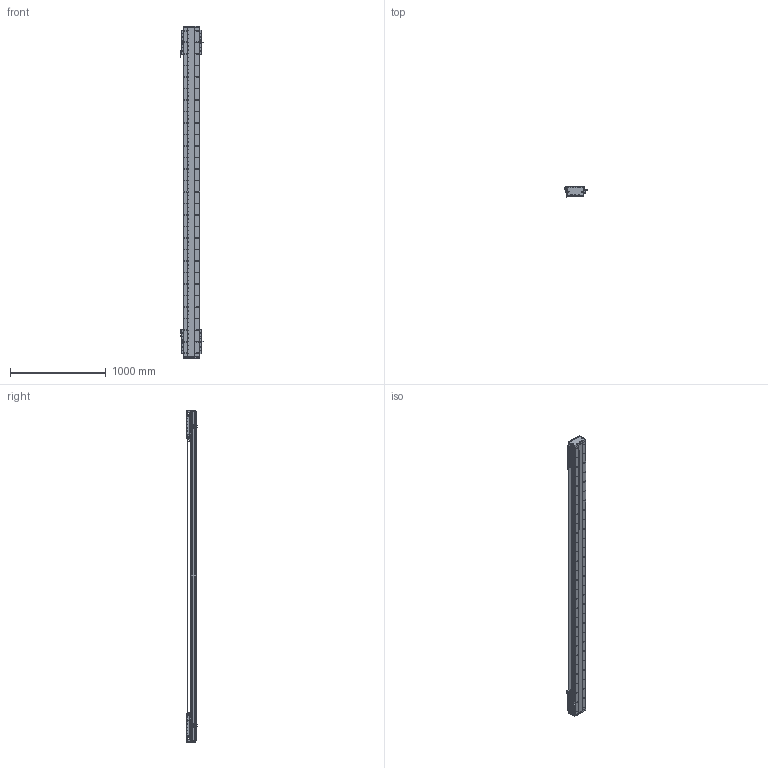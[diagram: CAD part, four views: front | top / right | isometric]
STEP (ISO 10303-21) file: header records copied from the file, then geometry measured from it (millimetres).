
FILE_DESCRIPTION (( 'STEP AP203' ), '1' );
FILE_NAME ('DA-C165-2-C3-T2840-C010-0.2 直线电机.STEP', '2023-06-13T09:13:34', ( '微软用户' ), ( '微软中国' ), 'SwSTEP 2.0', 'SolidWorks 2019', '' );
FILE_SCHEMA (( 'CONFIG_CONTROL_DESIGN' ));
Length unit declared in the file: millimetre
Products named in the file (22): 复件 六角薄螺母 M3^DA-C165-C3-T-C010-0.2-N 直线电机_GB_FASTENER_NUT_STNAB M3-C; 珨极趙賑雄怢啣C3-wf; IU-CU165-L 菁釱絳寢; 复件 DA165-GYP-00 光电感应片^DA-C165-C3-T-C010-0.2-N 直线电机; 复件 DA165-GD-DG-H-00 端盖^复件 CU165钢带组件_DA-C165-C3-T-C010-0.2-N 直线电机; 葩璃 CKM03-W075-C1C2-TP-3.0^DA-C165-C3-T-C010-0.2-N 眻盄萇儂; 葩璃 PM-Y45^DA-C165-C3-T-C010-0.2-N 眻盄萇儂; 复件 DA165-GD-1860-002-00 钢带盖板^复件 CU165钢带组件_DA-C165-C3-T-C010-0.2-N 直线电机; 葩璃 CKM01-W075-TRL^DA-C165-C3-T-C010-0.2-N 眻盄萇儂; 复件 CU165钢带组件^DA-C165-C3-T-C010-0.2-N 直线电机; 复件 DA95-HXJ-00 缓冲橡胶^DA-C165-C3-T-C010-0.2-N 直线电机; 葩璃 PM-T45^DA-C165-C3-T-C010-0.2-N 眻盄萇儂; 复件 66338-1000-006-00 光电感应块^DA-C165-C3-T-C010-0.2-N 直线电机; 复件 XD-U-02L 磁栅尺^DA-C165-C3-T-C010-0.2-N 直线电机_T; 复件 CU165 底座^IU-CU165-L 底座导轨_L3420; DA-C165-2-C3-T2840-C010-0.2 眻盄萇儂; 葩璃 DA95-GT-T-00^IU-CU165-L 菁釱絳寢_T; 复件 DA165-GDYK-00 钢带压块^复件 CU165钢带组件_DA-C165-C3-T-C010-0.2-N 直线电机; 复件 DMA-010-0.2 读数头^DA-C165-C3-T-C010-0.2-N 直线电机; 复件 DKW-HXJ-JY-00 缓冲橡胶^DA-C165-C3-T-C010-0.2-N 直线电机; 复件 DA165-GDLK-00 钢带拉块^复件 CU165钢带组件_DA-C165-C3-T-C010-0.2-N 直线电机; 复件 DA126-GYP-ZJ-00 中间光电感应片^DA-C165-C3-T-C010-0.2-N 直线电机
Assembly tree (45 placements, depth 3):
  DA-C165-2-C3-T2840-C010-0.2 眻盄萇儂
    IU-CU165-L 菁釱絳寢
      复件 CU165 底座^IU-CU165-L 底座导轨_L3420
      葩璃 DA95-GT-T-00^IU-CU165-L 菁釱絳寢_T  x4
    复件 XD-U-02L 磁栅尺^DA-C165-C3-T-C010-0.2-N 直线电机_T
    葩璃 PM-T45^DA-C165-C3-T-C010-0.2-N 眻盄萇儂  x4
    葩璃 CKM01-W075-TRL^DA-C165-C3-T-C010-0.2-N 眻盄萇儂
    复件 CU165钢带组件^DA-C165-C3-T-C010-0.2-N 直线电机
      复件 DA165-GD-DG-H-00 端盖^复件 CU165钢带组件_DA-C165-C3-T-C010-0.2-N 直线电机  x2
      复件 DA165-GDYK-00 钢带压块^复件 CU165钢带组件_DA-C165-C3-T-C010-0.2-N 直线电机  x2
      复件 DA165-GD-1860-002-00 钢带盖板^复件 CU165钢带组件_DA-C165-C3-T-C010-0.2-N 直线电机
      复件 DA165-GDLK-00 钢带拉块^复件 CU165钢带组件_DA-C165-C3-T-C010-0.2-N 直线电机  x2
    复件 DA95-HXJ-00 缓冲橡胶^DA-C165-C3-T-C010-0.2-N 直线电机  x4
    复件 DMA-010-0.2 读数头^DA-C165-C3-T-C010-0.2-N 直线电机  x2
    复件 DA165-GYP-00 光电感应片^DA-C165-C3-T-C010-0.2-N 直线电机  x2
    复件 66338-1000-006-00 光电感应块^DA-C165-C3-T-C010-0.2-N 直线电机
    葩璃 PM-Y45^DA-C165-C3-T-C010-0.2-N 眻盄萇儂
    复件 DA126-GYP-ZJ-00 中间光电感应片^DA-C165-C3-T-C010-0.2-N 直线电机
    葩璃 CKM03-W075-C1C2-TP-3.0^DA-C165-C3-T-C010-0.2-N 眻盄萇儂  x2
    复件 DKW-HXJ-JY-00 缓冲橡胶^DA-C165-C3-T-C010-0.2-N 直线电机  x2
    复件 六角薄螺母 M3^DA-C165-C3-T-C010-0.2-N 直线电机_GB_FASTENER_NUT_STNAB M3-C  x8
    珨极趙賑雄怢啣C3-wf  x2
Bounding box: 247.2 x 111.45 x 3460 mm (x, y, z)
Volume: 21238269.7 mm3; surface area: 6148071.7 mm2
Topology: 121 solids, 221 shells, 6985 faces, 19500 edges, 12212 vertices
Faces by surface type: cylinder 3870, plane 2047, cone 980, torus 80, sphere 8
Entity records: 169792 total; most frequent: CARTESIAN_POINT 47313, ORIENTED_EDGE 25584, DIRECTION 24528, EDGE_CURVE 12792, AXIS2_PLACEMENT_3D 9405, VERTEX_POINT 8366, EDGE_LOOP 5876, VECTOR 5718
